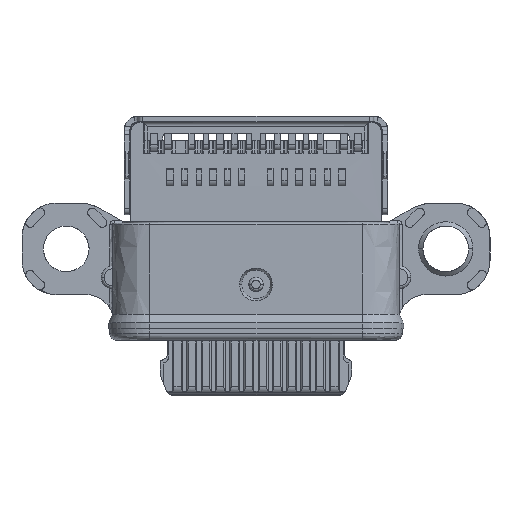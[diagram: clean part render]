
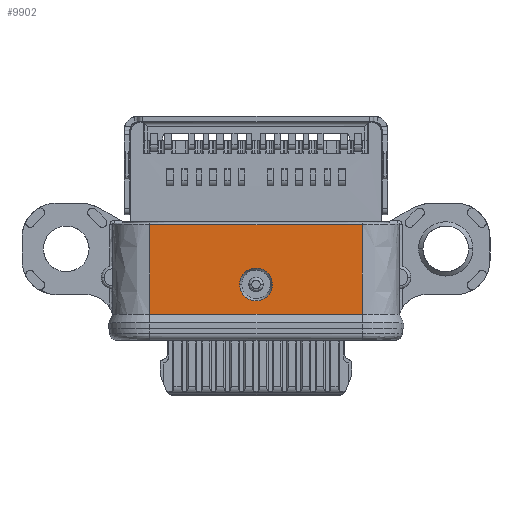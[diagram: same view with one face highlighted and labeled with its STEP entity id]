
A CAD part, top view. The second image highlights one B-rep face of the part: STEP entity #9902.
In plain terms, the highlighted free-form (B-spline) face has degree [1, 1] with [2, 2] control points.
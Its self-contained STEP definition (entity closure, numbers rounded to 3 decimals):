
#232 = B_SPLINE_SURFACE_WITH_KNOTS ( 'NONE', 1, 1, ( 
 ( #10395, #10242 ),
 ( #23711, #27882 ) ),
 .UNSPECIFIED., .F., .F., .F.,
 ( 2, 2 ),
 ( 2, 2 ),
 ( -3.869, 3.869 ),
 ( -1.638, 1.638 ),
 .UNSPECIFIED. ) ;
#319 = CARTESIAN_POINT ( 'NONE',  ( 14.7, -71.844, 2.39 ) ) ;
#383 = CARTESIAN_POINT ( 'NONE',  ( 14.275, -72.419, 2.39 ) ) ;
#483 = ORIENTED_EDGE ( 'NONE', *, *, #9185, .T. ) ;
#547 = B_SPLINE_CURVE_WITH_KNOTS ( 'NONE', 1,
 ( #8576, #24044 ),
 .UNSPECIFIED., .F., .F.,
 ( 2, 2 ),
 ( 0., 1. ),
 .UNSPECIFIED. ) ;
#673 = EDGE_CURVE ( 'NONE', #19385, #24892, #7370, .T. ) ;
#1126 = CARTESIAN_POINT ( 'NONE',  ( 18.57, -70.319, 2.39 ) ) ;
#1517 = ORIENTED_EDGE ( 'NONE', *, *, #16586, .F. ) ;
#2169 = VERTEX_POINT ( 'NONE', #19895 ) ;
#2404 = CARTESIAN_POINT ( 'NONE',  ( 15.15, -72.932, 2.39 ) ) ;
#2771 = CARTESIAN_POINT ( 'NONE',  ( 18.57, -73.469, 2.39 ) ) ;
#3911 = VERTEX_POINT ( 'NONE', #4362 ) ;
#4362 = CARTESIAN_POINT ( 'NONE',  ( 11.13, -73.469, 2.39 ) ) ;
#4583 = CARTESIAN_POINT ( 'NONE',  ( 15.363, -72.719, 2.39 ) ) ;
#4863 = CARTESIAN_POINT ( 'NONE',  ( 14.55, -72.932, 2.39 ) ) ;
#5099 = CARTESIAN_POINT ( 'NONE',  ( 18.57, -73.469, 2.39 ) ) ;
#5255 = CARTESIAN_POINT ( 'NONE',  ( 15.425, -72.419, 2.39 ) ) ;
#6361 = FACE_BOUND ( 'NONE', #11902, .T. ) ;
#6545 = CARTESIAN_POINT ( 'NONE',  ( 14.275, -72.269, 2.39 ) ) ;
#6822 = CARTESIAN_POINT ( 'NONE',  ( 14.55, -71.906, 2.39 ) ) ;
#7370 = B_SPLINE_CURVE_WITH_KNOTS ( 'NONE', 1,
 ( #23564, #24120 ),
 .UNSPECIFIED., .F., .F.,
 ( 2, 2 ),
 ( 0., 1. ),
 .UNSPECIFIED. ) ;
#7682 = ORIENTED_EDGE ( 'NONE', *, *, #673, .T. ) ;
#8576 = CARTESIAN_POINT ( 'NONE',  ( 18.57, -73.469, 2.39 ) ) ;
#8685 = VERTEX_POINT ( 'NONE', #5099 ) ;
#8871 = B_SPLINE_CURVE_WITH_KNOTS ( 'NONE', 1,
 ( #21249, #11604 ),
 .UNSPECIFIED., .F., .F.,
 ( 2, 2 ),
 ( 0., 1. ),
 .UNSPECIFIED. ) ;
#9050 = CARTESIAN_POINT ( 'NONE',  ( 14.275, -72.57, 2.39 ) ) ;
#9185 = EDGE_CURVE ( 'NONE', #8685, #19385, #10239, .T. ) ;
#9220 = EDGE_CURVE ( 'NONE', #24892, #3911, #8871, .T. ) ;
#9902 = ADVANCED_FACE ( 'NONE', ( #6361, #19217 ), #232, .T. ) ;
#10239 = B_SPLINE_CURVE_WITH_KNOTS ( 'NONE', 1,
 ( #2771, #19060 ),
 .UNSPECIFIED., .F., .F.,
 ( 2, 2 ),
 ( 0., 1. ),
 .UNSPECIFIED. ) ;
#10242 = CARTESIAN_POINT ( 'NONE',  ( 10.981, -70.256, 2.39 ) ) ;
#10395 = CARTESIAN_POINT ( 'NONE',  ( 10.981, -73.532, 2.39 ) ) ;
#10451 = B_SPLINE_CURVE_WITH_KNOTS ( 'NONE', 3,
 ( #15824, #11655, #4583, #2404, #24650, #22500, #4863, #26536, #9050, #383 ),
 .UNSPECIFIED., .F., .F.,
 ( 4, 2, 2, 2, 4 ),
 ( 0., 0.25, 0.5, 0.75, 1. ),
 .UNSPECIFIED. ) ;
#11001 = ORIENTED_EDGE ( 'NONE', *, *, #28328, .T. ) ;
#11604 = CARTESIAN_POINT ( 'NONE',  ( 11.13, -73.469, 2.39 ) ) ;
#11655 = CARTESIAN_POINT ( 'NONE',  ( 15.425, -72.569, 2.39 ) ) ;
#11902 = EDGE_LOOP ( 'NONE', ( #11001, #21473 ) ) ;
#14941 = CARTESIAN_POINT ( 'NONE',  ( 11.13, -70.319, 2.39 ) ) ;
#15481 = CARTESIAN_POINT ( 'NONE',  ( 15.15, -71.906, 2.39 ) ) ;
#15620 = CARTESIAN_POINT ( 'NONE',  ( 15., -71.844, 2.39 ) ) ;
#15824 = CARTESIAN_POINT ( 'NONE',  ( 15.425, -72.419, 2.39 ) ) ;
#16285 = CARTESIAN_POINT ( 'NONE',  ( 14.337, -72.119, 2.39 ) ) ;
#16586 = EDGE_CURVE ( 'NONE', #8685, #3911, #547, .T. ) ;
#17932 = CARTESIAN_POINT ( 'NONE',  ( 15.425, -72.269, 2.39 ) ) ;
#19060 = CARTESIAN_POINT ( 'NONE',  ( 18.57, -70.319, 2.39 ) ) ;
#19217 = FACE_OUTER_BOUND ( 'NONE', #19542, .T. ) ;
#19385 = VERTEX_POINT ( 'NONE', #1126 ) ;
#19542 = EDGE_LOOP ( 'NONE', ( #1517, #483, #7682, #23077 ) ) ;
#19826 = CARTESIAN_POINT ( 'NONE',  ( 15.363, -72.119, 2.39 ) ) ;
#19895 = CARTESIAN_POINT ( 'NONE',  ( 14.275, -72.419, 2.39 ) ) ;
#20576 = VERTEX_POINT ( 'NONE', #5255 ) ;
#21249 = CARTESIAN_POINT ( 'NONE',  ( 11.13, -70.319, 2.39 ) ) ;
#21261 = B_SPLINE_CURVE_WITH_KNOTS ( 'NONE', 3,
 ( #24585, #6545, #16285, #6822, #319, #15620, #15481, #19826, #17932, #27277 ),
 .UNSPECIFIED., .F., .F.,
 ( 4, 2, 2, 2, 4 ),
 ( 0., 0.25, 0.5, 0.75, 1. ),
 .UNSPECIFIED. ) ;
#21473 = ORIENTED_EDGE ( 'NONE', *, *, #25812, .T. ) ;
#22500 = CARTESIAN_POINT ( 'NONE',  ( 14.7, -72.994, 2.39 ) ) ;
#23077 = ORIENTED_EDGE ( 'NONE', *, *, #9220, .T. ) ;
#23564 = CARTESIAN_POINT ( 'NONE',  ( 18.57, -70.319, 2.39 ) ) ;
#23711 = CARTESIAN_POINT ( 'NONE',  ( 18.719, -73.532, 2.39 ) ) ;
#24044 = CARTESIAN_POINT ( 'NONE',  ( 11.13, -73.469, 2.39 ) ) ;
#24120 = CARTESIAN_POINT ( 'NONE',  ( 11.13, -70.319, 2.39 ) ) ;
#24585 = CARTESIAN_POINT ( 'NONE',  ( 14.275, -72.419, 2.39 ) ) ;
#24650 = CARTESIAN_POINT ( 'NONE',  ( 15., -72.994, 2.39 ) ) ;
#24892 = VERTEX_POINT ( 'NONE', #14941 ) ;
#25812 = EDGE_CURVE ( 'NONE', #20576, #2169, #10451, .T. ) ;
#26536 = CARTESIAN_POINT ( 'NONE',  ( 14.337, -72.719, 2.39 ) ) ;
#27277 = CARTESIAN_POINT ( 'NONE',  ( 15.425, -72.419, 2.39 ) ) ;
#27882 = CARTESIAN_POINT ( 'NONE',  ( 18.719, -70.256, 2.39 ) ) ;
#28328 = EDGE_CURVE ( 'NONE', #2169, #20576, #21261, .T. ) ;
